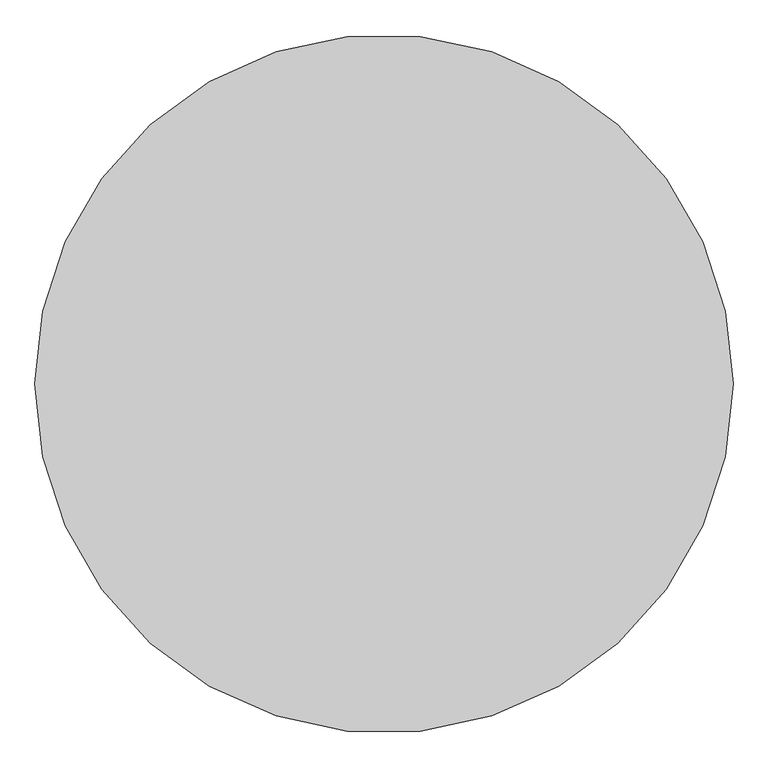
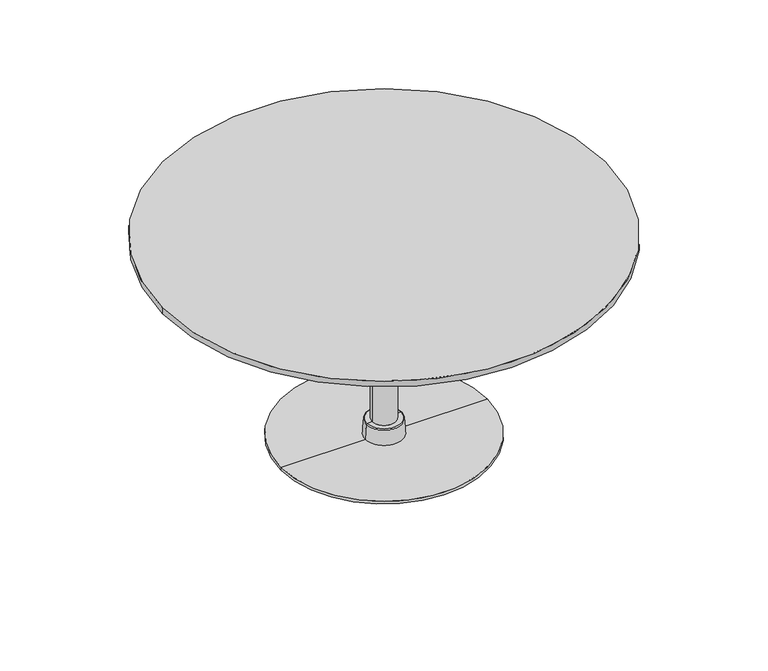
"""IFC4 building model written with IfcOpenShell, lengths in millimetres: furniture geometry, Fredericia - Plan Column Table - Ø150 - H73 - 6625 : Fredericia - Plan Column Table - Ø150 - H73 - 6625."""

from ifc_helpers import new_model, si_unit, point, frame, origin, origin_2d, place, context, project, spatial, polyline, circle_curve, ellipse_curve, trimmed, segment, composite_curve, outline, extrude, source, transform, mapped, element, save
from ifc_brep_helpers import plane_surface, cylinder_surface, revolved_surface, advanced_brep


def furniture_fb537beb(model_context):
    return source(origin(), model_context, "Body", "SolidModel", [
        advanced_brep(
        [(0.0, 0.0, 0.0), (-350.0, 0.0, 0.0), (350.0, 0.0, 0.0), (295.0, 0.0, 700.0), (-295.0, 0.0, 700.0), (0.0, 0.0, 700.0), (295.0, 0.0, 695.0), (-295.0, 0.0, 695.0), (40.0, 0.0, 695.0), (-40.0, 0.0, 695.0), (40.0, 0.0, 65.0), (-40.0, 0.0, 65.0), (57.1367795, 0.0, 65.0), (-57.1367795, 0.0, 65.0), (60.1294716, 0.0, 62.2092694), (-60.1294716, 0.0, 62.2092694), (63.7802994, 0.0, 10.0), (-63.7802994, 0.0, 10.0), (350.0, 0.0, 10.0), (-350.0, 0.0, 10.0)],
        [
            (0, 1),
            (1, 2, circle_curve(frame((0.0, 0.0, 0.0), z_axis=(0.0, 0.0, -1.0), x_axis=(-1.0, 0.0, 0.0)), 350.0)),
            (2, 0),
            (2, 1, circle_curve(frame((0.0, 0.0, 0.0), z_axis=(0.0, 0.0, -1.0), x_axis=(-1.0, 0.0, 0.0)), 350.0)),
            (3, 4, circle_curve(frame((0.0, 0.0, 700.0), z_axis=(0.0, 0.0, 1.0), x_axis=(-1.0, 0.0, 0.0)), 295.0)),
            (4, 5),
            (5, 3),
            (4, 3, circle_curve(frame((0.0, 0.0, 700.0), z_axis=(0.0, 0.0, 1.0), x_axis=(-1.0, 0.0, 0.0)), 295.0)),
            (6, 7, circle_curve(frame((0.0, 0.0, 695.0), z_axis=(0.0, 0.0, 1.0), x_axis=(-1.0, 0.0, 0.0)), 295.0)),
            (7, 4),
            (3, 6),
            (7, 6, circle_curve(frame((0.0, 0.0, 695.0), z_axis=(0.0, 0.0, 1.0), x_axis=(-1.0, 0.0, 0.0)), 295.0)),
            (8, 9, circle_curve(frame((0.0, 0.0, 695.0), z_axis=(0.0, 0.0, 1.0), x_axis=(-1.0, 0.0, 0.0)), 40.0)),
            (9, 7),
            (6, 8),
            (9, 8, circle_curve(frame((0.0, 0.0, 695.0), z_axis=(0.0, 0.0, 1.0), x_axis=(-1.0, 0.0, 0.0)), 40.0)),
            (10, 11, circle_curve(frame((0.0, 0.0, 65.0), z_axis=(0.0, 0.0, 1.0), x_axis=(-1.0, 0.0, 0.0)), 40.0)),
            (11, 9),
            (8, 10),
            (11, 10, circle_curve(frame((0.0, 0.0, 65.0), z_axis=(0.0, 0.0, 1.0), x_axis=(-1.0, 0.0, 0.0)), 40.0)),
            (12, 13, circle_curve(frame((0.0, 0.0, 65.0), z_axis=(0.0, 0.0, 1.0), x_axis=(-1.0, 0.0, 0.0)), 57.1367795)),
            (13, 11),
            (10, 12),
            (13, 12, circle_curve(frame((0.0, 0.0, 65.0), z_axis=(0.0, 0.0, 1.0), x_axis=(-1.0, 0.0, 0.0)), 57.1367795)),
            (14, 15, circle_curve(frame((0.0, 0.0, 62.2092694), z_axis=(0.0, 0.0, 1.0), x_axis=(-1.0, 0.0, 0.0)), 60.1294716)),
            (15, 13, circle_curve(frame((-57.1367795, 0.0, 62.0), z_axis=(0.0, 1.0, 0.0), x_axis=(1.0, 0.0, 0.0)), 3.0)),
            (12, 14, circle_curve(frame((57.1367795, 0.0, 62.0), z_axis=(0.0, 1.0, 0.0), x_axis=(-1.0, 0.0, 0.0)), 3.0)),
            (15, 14, circle_curve(frame((0.0, 0.0, 62.2092694), z_axis=(0.0, 0.0, 1.0), x_axis=(-1.0, 0.0, 0.0)), 60.1294716)),
            (16, 17, circle_curve(frame((0.0, 0.0, 10.0), z_axis=(0.0, 0.0, 1.0), x_axis=(-1.0, 0.0, 0.0)), 63.7802994)),
            (17, 15),
            (14, 16),
            (17, 16, circle_curve(frame((0.0, 0.0, 10.0), z_axis=(0.0, 0.0, 1.0), x_axis=(-1.0, 0.0, 0.0)), 63.7802994)),
            (18, 19, circle_curve(frame((0.0, 0.0, 10.0), z_axis=(0.0, 0.0, 1.0), x_axis=(-1.0, 0.0, 0.0)), 350.0)),
            (19, 17),
            (16, 18),
            (19, 18, circle_curve(frame((0.0, 0.0, 10.0), z_axis=(0.0, 0.0, 1.0), x_axis=(-1.0, 0.0, 0.0)), 350.0)),
            (1, 19),
            (18, 2),
        ],
        [
            plane_surface(frame((0.0, 0.0, 0.0), z_axis=(0.0, 0.0, -1.0), x_axis=(-1.0, 0.0, 0.0))),
            plane_surface(frame((0.0, 0.0, 700.0), z_axis=(0.0, 0.0, 1.0), x_axis=(-1.0, 0.0, 0.0))),
            cylinder_surface(frame((0.0, 0.0, 780.0), z_axis=(0.0, 0.0, -1.0), x_axis=(-1.0, 0.0, 0.0)), 295.0),
            plane_surface(frame((0.0, 0.0, 695.0), z_axis=(0.0, 0.0, -1.0), x_axis=(-1.0, 0.0, 0.0))),
            cylinder_surface(frame((0.0, 0.0, 780.0), z_axis=(0.0, 0.0, -1.0), x_axis=(-1.0, 0.0, 0.0)), 40.0),
            plane_surface(frame((0.0, 0.0, 65.0), z_axis=(0.0, 0.0, 1.0), x_axis=(-1.0, 0.0, 0.0))),
            revolved_surface(trimmed(ellipse_curve(frame((-57.1367795, 0.0, 62.0), z_axis=(0.0, -1.0, 0.0), x_axis=(1.0, 0.0, 0.0)), 3.0, 3.0), [point((-57.1367795, 0.0, 65.0))], [point((-60.1294716, 0.0, 62.2092694))], True, "CARTESIAN"), (0.0, 0.0, 780.0), (0.0, 0.0, -1.0)),
            revolved_surface(polyline([(-60.1294716, 0.0, 62.2092694), (-63.7802994, 0.0, 10.0)]), (0.0, 0.0, 780.0), (0.0, 0.0, -1.0)),
            plane_surface(frame((0.0, 0.0, 10.0), z_axis=(0.0, 0.0, 1.0), x_axis=(-1.0, 0.0, 0.0))),
            cylinder_surface(frame((0.0, 0.0, 780.0), z_axis=(0.0, 0.0, -1.0), x_axis=(-1.0, 0.0, 0.0)), 350.0),
        ],
        [
            (0, [[1, 2, 3]]),
            (0, [[-3, 4, -1]]),
            (1, [[5, 6, 7]]),
            (1, [[8, -7, -6]]),
            (2, [[9, 10, -5, 11]]),
            (2, [[12, -11, -8, -10]]),
            (3, [[13, 14, -9, 15]]),
            (3, [[16, -15, -12, -14]]),
            (4, [[17, 18, -13, 19]]),
            (4, [[20, -19, -16, -18]]),
            (5, [[21, 22, -17, 23]]),
            (5, [[24, -23, -20, -22]]),
            (6, [[25, 26, -21, 27]]),
            (6, [[28, -27, -24, -26]]),
            (7, [[29, 30, -25, 31]]),
            (7, [[32, -31, -28, -30]]),
            (8, [[33, 34, -29, 35]]),
            (8, [[36, -35, -32, -34]]),
            (9, [[-2, 37, -33, 38]]),
            (9, [[-4, -38, -36, -37]]),
        ],
    ),
        extrude(outline(composite_curve([segment(trimmed(circle_curve(origin_2d(), 750.0), [point((-750.0, 0.0))], [point((750.0, 0.0))], False, "CARTESIAN"), True, "CONTINUOUS"), segment(trimmed(circle_curve(origin_2d(), 750.0), [point((750.0, 0.0))], [point((-750.0, 0.0))], False, "CARTESIAN"), True, "CONTINUOUS")], self_intersect=False)), frame((0.0, 0.0, 700.0), z_axis=(0.0, 0.0, 1.0), x_axis=(1.0, 0.0, 0.0)), (0.0, 0.0, 1.0), 20.0),
    ])


if __name__ == "__main__":
    model = new_model("IFC4")
    model_context = context("Model", 3, world=origin())
    ifc_project = project(units=[si_unit("LENGTHUNIT", "METRE", prefix="MILLI")], contexts=[model_context])
    site = spatial("IfcSite", under=ifc_project)
    building = spatial("IfcBuilding", under=site)
    placement = place(None, origin())
    furniture_shape = furniture_fb537beb(model_context)
    element("IfcFurniture", 1, ObjectType="Fredericia - Plan Column Table - Ø150 - H73 - 6625 : Fredericia - Plan Column Table - Ø150 - H73 - 6625", at=placement, inside=building, context=model_context, shape_type="MappedRepresentation", body=[
        mapped(furniture_shape, transform((0.0, 0.0, 0.0), x_axis=(1.0, 0.0, 0.0), y_axis=(0.0, 1.0, 0.0), z_axis=(0.0, 0.0, 1.0))),
    ])
    save(model, "model.ifc")
